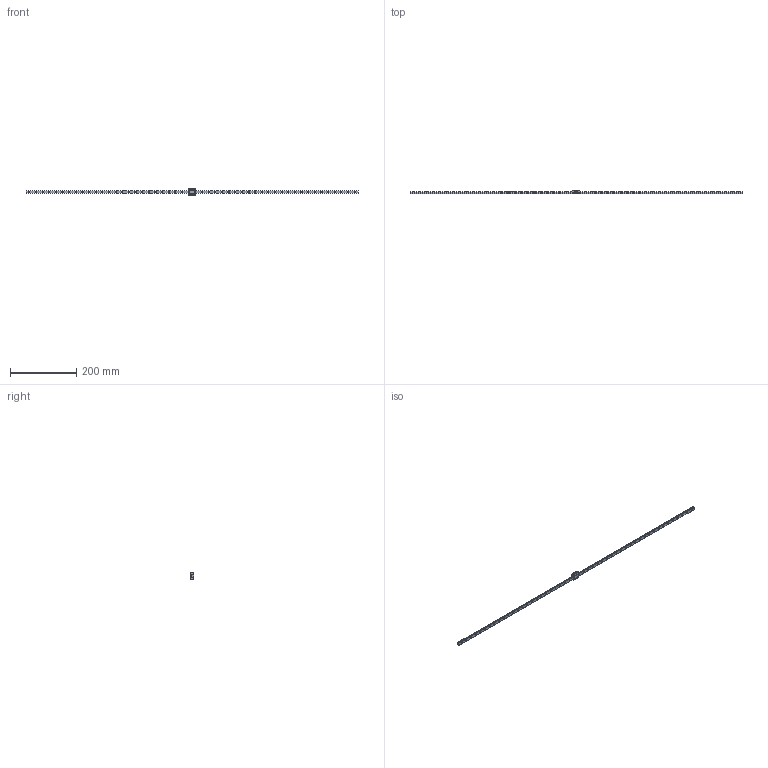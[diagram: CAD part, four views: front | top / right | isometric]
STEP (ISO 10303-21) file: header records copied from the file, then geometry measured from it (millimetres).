
FILE_DESCRIPTION( ( '' ), '1' );
FILE_NAME( 'C:/Users/v3-771-32344/Documents/Website 2016/STEP/SRS9XS1UU1000100489.25000.stp', '2016-11-10T13:08:39', ( '' ), ( '' ), ' ', ' ', ' ' );
FILE_SCHEMA( ( 'CONFIG_CONTROL_DESIGN' ) );
Length unit declared in the file: millimetre
Products named in the file (2): 1; 2
Bounding box: 1000 x 10 x 20 mm (x, y, z)
Volume: 42881.5 mm3; surface area: 33390.9 mm2
Topology: 2 solids, 2 shells, 374 faces, 930 edges, 610 vertices
Faces by surface type: cylinder 235, plane 131, cone 8
Entity records: 11580 total; most frequent: DIRECTION 2156, CARTESIAN_POINT 1912, ORIENTED_EDGE 1852, EDGE_CURVE 926, AXIS2_PLACEMENT_3D 854, VERTEX_POINT 610, EDGE_LOOP 528, CIRCLE 474
